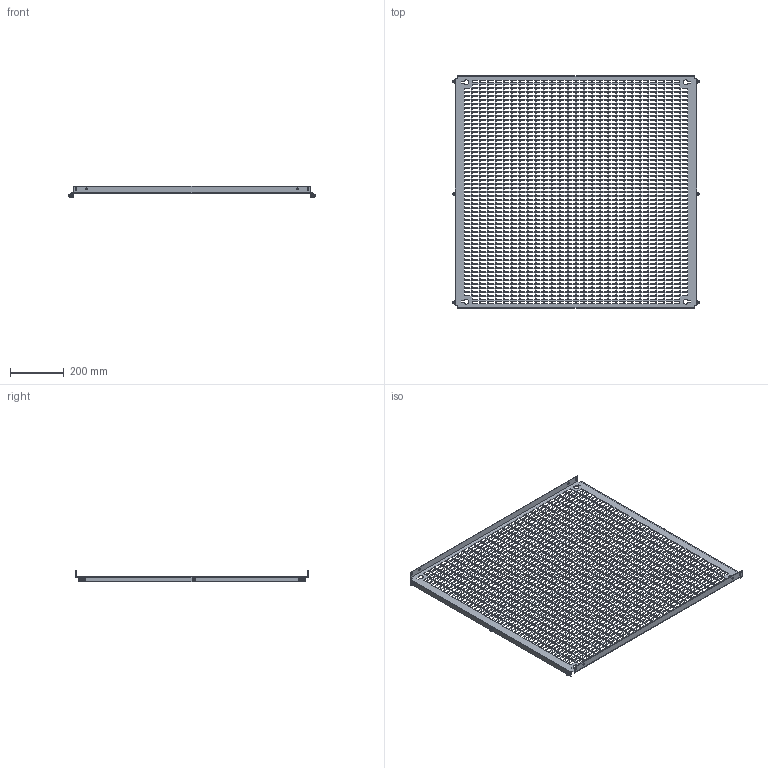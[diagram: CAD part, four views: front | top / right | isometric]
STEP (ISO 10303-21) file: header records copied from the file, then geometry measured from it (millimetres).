
FILE_DESCRIPTION(('Open CASCADE Model'),'2;1');
FILE_NAME('Open CASCADE Shape Model','2025-02-19T16:54:15',('Author'),( 'Open CASCADE'),'Open CASCADE STEP processor 7.8','Open CASCADE 7.8' ,'Unknown');
FILE_SCHEMA(('AUTOMOTIVE_DESIGN { 1 0 10303 214 1 1 1 1 }'));
Length unit declared in the file: millimetre
Products named in the file (4): Compound1; Solid1; Solid2; Solid3
Assembly tree (13 placements, depth 2):
  Compound1
    Solid1
    Solid2  x6
    Solid3  x6
Bounding box: 920 x 869 x 43 mm (x, y, z)
Volume: 817940.3 mm3; surface area: 1056537.3 mm2
Topology: 13 solids, 13 shells, 6636 faces, 19651 edges, 13047 vertices
Faces by surface type: plane 6408, cone 102, bspline 72, cylinder 36, torus 18
Full cylindrical faces by diameter (mm): 5 x6, 6 x12, 7 x14
Entity records: 216982 total; most frequent: CARTESIAN_POINT 38787, ORIENTED_EDGE 38172, DIRECTION 31830, EDGE_CURVE 19086, LINE 18928, VECTOR 18928, VERTEX_POINT 12717, FACE_BOUND 9543
